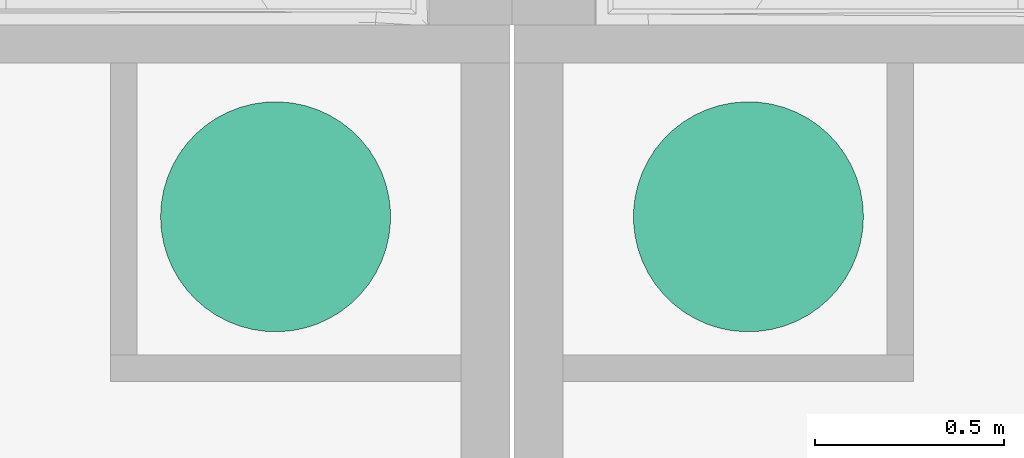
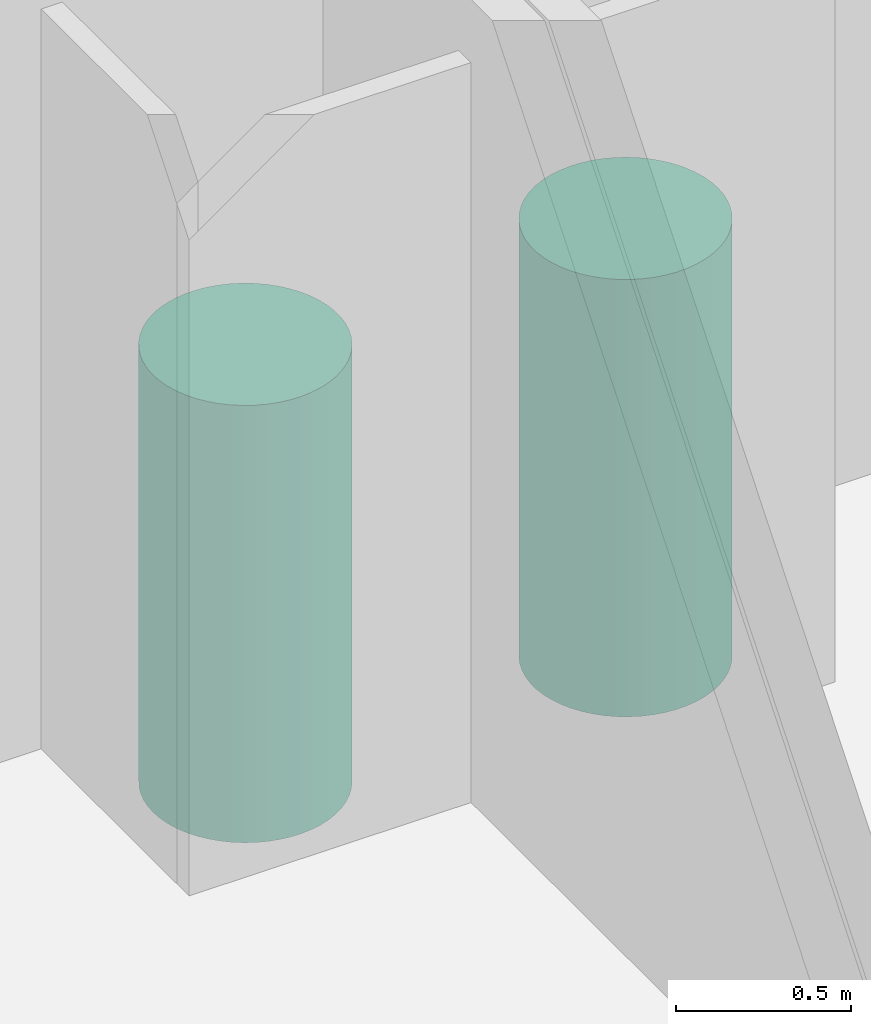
# One storey, part 30 of 33: 2 flow terminals.
"""IFC2X3 building model written with IfcOpenShell, lengths in metres."""

from ifc_helpers import new_model, entity, si_unit, converted_unit, derived_unit, direction, frame, frame_2d, origin, place, context, subcontext, project, spatial, circle, extrude, source, transform, mapped, element, save


model = new_model("IFC2X3")

# Units and contexts
model_context = context("Model", 3, precision=1e-05, world=origin(), true_north=direction((6.12303176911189e-17, 1.0)))
context_of_model = context(None, 3, precision=1e-05, world=origin(), true_north=direction((6.12303176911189e-17, 1.0)))
body_context = subcontext(model_context, "Body", "Model", "MODEL_VIEW")
ifc_project = project(units=[si_unit("LENGTHUNIT", "METRE"), si_unit("AREAUNIT", "SQUARE_METRE"), si_unit("VOLUMEUNIT", "CUBIC_METRE"), converted_unit("PLANEANGLEUNIT", "DEGREE", entity("IfcRatioMeasure", 0.0174532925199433), si_unit("PLANEANGLEUNIT", "RADIAN"), dimensions=[0, 0, 0, 0, 0, 0, 0]), si_unit("MASSUNIT", "GRAM", prefix="KILO"), si_unit("TIMEUNIT", "SECOND"), si_unit("FREQUENCYUNIT", "HERTZ"), si_unit("THERMODYNAMICTEMPERATUREUNIT", "DEGREE_CELSIUS"), derived_unit("THERMALTRANSMITTANCEUNIT", [(si_unit("MASSUNIT", "GRAM", prefix="KILO"), 1), (si_unit("THERMODYNAMICTEMPERATUREUNIT", "KELVIN"), -1), (si_unit("TIMEUNIT", "SECOND"), -3)]), derived_unit("VOLUMETRICFLOWRATEUNIT", [(si_unit("LENGTHUNIT", "METRE"), 3), (si_unit("TIMEUNIT", "SECOND"), -1)]), si_unit("ELECTRICCURRENTUNIT", "AMPERE"), si_unit("ELECTRICVOLTAGEUNIT", "VOLT"), si_unit("POWERUNIT", "WATT"), si_unit("FORCEUNIT", "NEWTON", prefix="KILO"), si_unit("ILLUMINANCEUNIT", "LUX"), si_unit("LUMINOUSFLUXUNIT", "LUMEN"), si_unit("LUMINOUSINTENSITYUNIT", "CANDELA"), si_unit("PRESSUREUNIT", "PASCAL")], contexts=[model_context, context_of_model])

# Site, building, storey
site_placement = place(None, origin())
site = spatial("IfcSite", under=ifc_project, at=site_placement, Name="Surface", CompositionType="ELEMENT")
building_placement = place(site_placement, origin())
building = spatial("IfcBuilding", under=site, at=building_placement, CompositionType="ELEMENT")
storey_placement = place(building_placement, origin())
storey = spatial("IfcBuildingStorey", under=building, at=storey_placement, Name="Plan des fondations  Maisons 1 et 2", CompositionType="ELEMENT", Elevation=0.0)

# Flow terminals
shared_shape_1 = source(origin(), body_context, "Body", "SweptSolid", [
    extrude(circle(Radius=0.305, at=frame_2d((2.0605001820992e-17, 4.92716529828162e-16), x_axis=(1.0, 0.0))), origin(), (0.0, 0.0, 1.0), 1.525),
])
flow_terminal_1_placement = place(storey_placement, frame((69.461616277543, 82.0494796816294, 0.0)))
element("IfcFlowTerminal", 1, at=flow_terminal_1_placement, inside=storey, Name="Chauffe eau:Chauffe eau", ObjectType="Chauffe eau", context=body_context, shape_type="MappedRepresentation", body=[
    mapped(shared_shape_1, transform((0.0, 0.0, 0.0), scale=1.0)),
])
shared_shape_2 = source(origin(), body_context, "Body", "SweptSolid", [
    extrude(circle(Radius=0.305, at=frame_2d((-9.40594473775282e-18, 1.37312338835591e-15), x_axis=(1.0, 0.0))), origin(), (0.0, 0.0, 1.0), 1.525),
])
flow_terminal_2_placement = place(storey_placement, frame((68.2076364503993, 82.0494796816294, 0.0), z_axis=(0.0, 0.0, 1.0), x_axis=(-1.0, 0.0, 0.0)))
element("IfcFlowTerminal", 2, at=flow_terminal_2_placement, inside=storey, Name="Chauffe eau:Chauffe eau", ObjectType="Chauffe eau", context=body_context, shape_type="MappedRepresentation", body=[
    mapped(shared_shape_2, transform((0.0, 0.0, 0.0), scale=1.0)),
])

save(model, "model.ifc")
